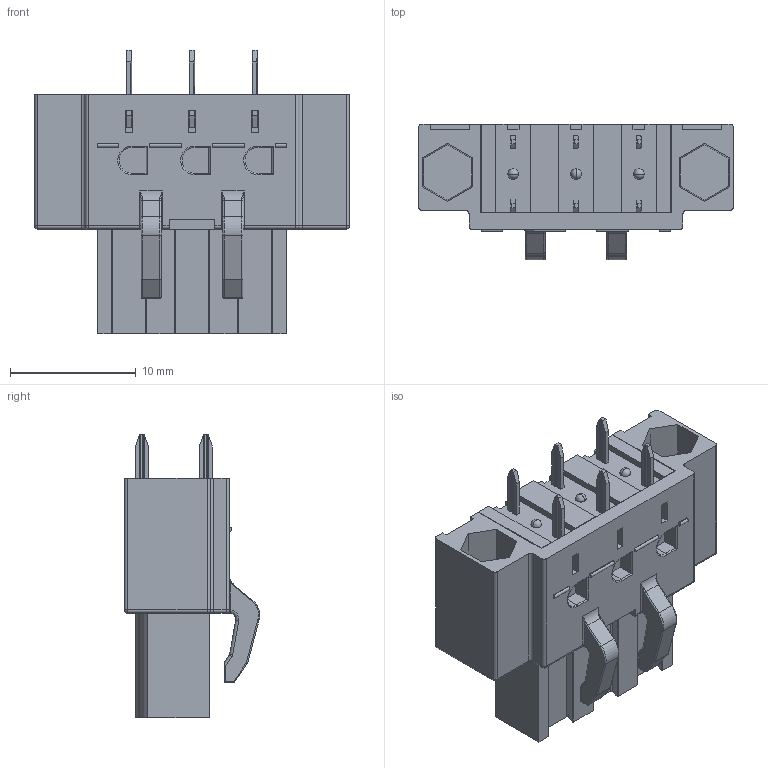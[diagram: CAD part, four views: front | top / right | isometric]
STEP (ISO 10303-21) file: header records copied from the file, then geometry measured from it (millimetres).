
FILE_DESCRIPTION((''),'2;1');
FILE_NAME('33','2019-04-19T',('zhenbing.lai'),(''),'CREO PARAMETRIC BY PTC INC, 2016260','CREO PARAMETRIC BY PTC INC, 2016260','');
FILE_SCHEMA(('CONFIG_CONTROL_DESIGN'));
Length unit declared in the file: millimetre
Products named in the file (1): 33
Bounding box: 25 x 10.76 x 22.5 mm (x, y, z)
Volume: 2499.1 mm3; surface area: 2004.9 mm2
Topology: 1 solids, 1 shells, 495 faces, 1327 edges, 841 vertices
Faces by surface type: plane 250, cylinder 162, torus 25, sphere 24, bspline 24, cone 10
Entity records: 16159 total; most frequent: CARTESIAN_POINT 3863, ORIENTED_EDGE 2606, DIRECTION 2520, EDGE_CURVE 1303, AXIS2_PLACEMENT_3D 861, VERTEX_POINT 841, VECTOR 798, LINE 798
